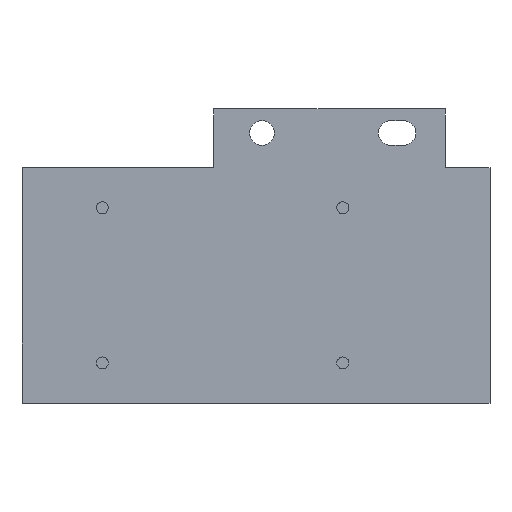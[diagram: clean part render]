
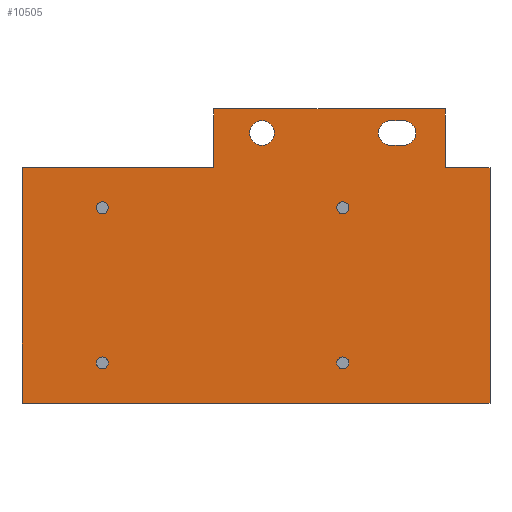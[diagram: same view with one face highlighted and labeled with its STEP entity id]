
A CAD part, front view. The second image highlights one B-rep face of the part: STEP entity #10505.
In plain terms, the highlighted planar face has unit normal (0, -1, 0).
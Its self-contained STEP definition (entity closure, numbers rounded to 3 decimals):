
#10469 = EDGE_CURVE('',#10470,#10472,#10474,.T.);
#10470 = VERTEX_POINT('',#10471);
#10471 = CARTESIAN_POINT('',(0.,-14.5,0.));
#10472 = VERTEX_POINT('',#10473);
#10473 = CARTESIAN_POINT('',(0.,-14.5,88.));
#10474 = LINE('',#10475,#10476);
#10475 = CARTESIAN_POINT('',(0.,-14.5,0.));
#10476 = VECTOR('',#10477,1.);
#10477 = DIRECTION('',(0.,0.,1.));
#10505 = ADVANCED_FACE('',(#10506,#10563,#10574,#10585,#10596,#10632,
    #10643),#10654,.T.);
#10506 = FACE_BOUND('',#10507,.T.);
#10507 = EDGE_LOOP('',(#10508,#10518,#10526,#10534,#10542,#10550,#10556,
    #10557));
#10508 = ORIENTED_EDGE('',*,*,#10509,.T.);
#10509 = EDGE_CURVE('',#10510,#10512,#10514,.T.);
#10510 = VERTEX_POINT('',#10511);
#10511 = CARTESIAN_POINT('',(175.,-14.5,0.));
#10512 = VERTEX_POINT('',#10513);
#10513 = CARTESIAN_POINT('',(175.,-14.5,88.));
#10514 = LINE('',#10515,#10516);
#10515 = CARTESIAN_POINT('',(175.,-14.5,0.));
#10516 = VECTOR('',#10517,1.);
#10517 = DIRECTION('',(0.,0.,1.));
#10518 = ORIENTED_EDGE('',*,*,#10519,.F.);
#10519 = EDGE_CURVE('',#10520,#10512,#10522,.T.);
#10520 = VERTEX_POINT('',#10521);
#10521 = CARTESIAN_POINT('',(158.35,-14.5,88.));
#10522 = LINE('',#10523,#10524);
#10523 = CARTESIAN_POINT('',(0.,-14.5,88.));
#10524 = VECTOR('',#10525,1.);
#10525 = DIRECTION('',(1.,0.,-0.));
#10526 = ORIENTED_EDGE('',*,*,#10527,.T.);
#10527 = EDGE_CURVE('',#10520,#10528,#10530,.T.);
#10528 = VERTEX_POINT('',#10529);
#10529 = CARTESIAN_POINT('',(158.35,-14.5,110.));
#10530 = LINE('',#10531,#10532);
#10531 = CARTESIAN_POINT('',(158.35,-14.5,83.));
#10532 = VECTOR('',#10533,1.);
#10533 = DIRECTION('',(0.,0.,1.));
#10534 = ORIENTED_EDGE('',*,*,#10535,.F.);
#10535 = EDGE_CURVE('',#10536,#10528,#10538,.T.);
#10536 = VERTEX_POINT('',#10537);
#10537 = CARTESIAN_POINT('',(71.65,-14.5,110.));
#10538 = LINE('',#10539,#10540);
#10539 = CARTESIAN_POINT('',(71.65,-14.5,110.));
#10540 = VECTOR('',#10541,1.);
#10541 = DIRECTION('',(1.,0.,-0.));
#10542 = ORIENTED_EDGE('',*,*,#10543,.F.);
#10543 = EDGE_CURVE('',#10544,#10536,#10546,.T.);
#10544 = VERTEX_POINT('',#10545);
#10545 = CARTESIAN_POINT('',(71.65,-14.5,88.));
#10546 = LINE('',#10547,#10548);
#10547 = CARTESIAN_POINT('',(71.65,-14.5,83.));
#10548 = VECTOR('',#10549,1.);
#10549 = DIRECTION('',(0.,0.,1.));
#10550 = ORIENTED_EDGE('',*,*,#10551,.F.);
#10551 = EDGE_CURVE('',#10472,#10544,#10552,.T.);
#10552 = LINE('',#10553,#10554);
#10553 = CARTESIAN_POINT('',(0.,-14.5,88.));
#10554 = VECTOR('',#10555,1.);
#10555 = DIRECTION('',(1.,0.,-0.));
#10556 = ORIENTED_EDGE('',*,*,#10469,.F.);
#10557 = ORIENTED_EDGE('',*,*,#10558,.T.);
#10558 = EDGE_CURVE('',#10470,#10510,#10559,.T.);
#10559 = LINE('',#10560,#10561);
#10560 = CARTESIAN_POINT('',(0.,-14.5,0.));
#10561 = VECTOR('',#10562,1.);
#10562 = DIRECTION('',(1.,0.,-0.));
#10563 = FACE_BOUND('',#10564,.T.);
#10564 = EDGE_LOOP('',(#10565));
#10565 = ORIENTED_EDGE('',*,*,#10566,.T.);
#10566 = EDGE_CURVE('',#10567,#10567,#10569,.T.);
#10567 = VERTEX_POINT('',#10568);
#10568 = CARTESIAN_POINT('',(30.,-14.5,75.25));
#10569 = CIRCLE('',#10570,2.25);
#10570 = AXIS2_PLACEMENT_3D('',#10571,#10572,#10573);
#10571 = CARTESIAN_POINT('',(30.,-14.5,73.));
#10572 = DIRECTION('',(0.,1.,0.));
#10573 = DIRECTION('',(0.,-0.,1.));
#10574 = FACE_BOUND('',#10575,.T.);
#10575 = EDGE_LOOP('',(#10576));
#10576 = ORIENTED_EDGE('',*,*,#10577,.T.);
#10577 = EDGE_CURVE('',#10578,#10578,#10580,.T.);
#10578 = VERTEX_POINT('',#10579);
#10579 = CARTESIAN_POINT('',(30.,-14.5,17.25));
#10580 = CIRCLE('',#10581,2.25);
#10581 = AXIS2_PLACEMENT_3D('',#10582,#10583,#10584);
#10582 = CARTESIAN_POINT('',(30.,-14.5,15.));
#10583 = DIRECTION('',(0.,1.,0.));
#10584 = DIRECTION('',(0.,-0.,1.));
#10585 = FACE_BOUND('',#10586,.T.);
#10586 = EDGE_LOOP('',(#10587));
#10587 = ORIENTED_EDGE('',*,*,#10588,.T.);
#10588 = EDGE_CURVE('',#10589,#10589,#10591,.T.);
#10589 = VERTEX_POINT('',#10590);
#10590 = CARTESIAN_POINT('',(89.735,-14.5,105.6));
#10591 = CIRCLE('',#10592,4.6);
#10592 = AXIS2_PLACEMENT_3D('',#10593,#10594,#10595);
#10593 = CARTESIAN_POINT('',(89.735,-14.5,101.));
#10594 = DIRECTION('',(0.,1.,0.));
#10595 = DIRECTION('',(0.,-0.,1.));
#10596 = FACE_BOUND('',#10597,.T.);
#10597 = EDGE_LOOP('',(#10598,#10608,#10617,#10625));
#10598 = ORIENTED_EDGE('',*,*,#10599,.T.);
#10599 = EDGE_CURVE('',#10600,#10602,#10604,.T.);
#10600 = VERTEX_POINT('',#10601);
#10601 = CARTESIAN_POINT('',(142.665,-14.5,96.4));
#10602 = VERTEX_POINT('',#10603);
#10603 = CARTESIAN_POINT('',(137.865,-14.5,96.4));
#10604 = LINE('',#10605,#10606);
#10605 = CARTESIAN_POINT('',(113.744,-14.5,96.4));
#10606 = VECTOR('',#10607,1.);
#10607 = DIRECTION('',(-1.,0.,0.));
#10608 = ORIENTED_EDGE('',*,*,#10609,.T.);
#10609 = EDGE_CURVE('',#10602,#10610,#10612,.T.);
#10610 = VERTEX_POINT('',#10611);
#10611 = CARTESIAN_POINT('',(137.865,-14.5,105.6));
#10612 = CIRCLE('',#10613,4.6);
#10613 = AXIS2_PLACEMENT_3D('',#10614,#10615,#10616);
#10614 = CARTESIAN_POINT('',(137.865,-14.5,101.));
#10615 = DIRECTION('',(0.,1.,0.));
#10616 = DIRECTION('',(0.,-0.,1.));
#10617 = ORIENTED_EDGE('',*,*,#10618,.F.);
#10618 = EDGE_CURVE('',#10619,#10610,#10621,.T.);
#10619 = VERTEX_POINT('',#10620);
#10620 = CARTESIAN_POINT('',(142.665,-14.5,105.6));
#10621 = LINE('',#10622,#10623);
#10622 = CARTESIAN_POINT('',(113.744,-14.5,105.6));
#10623 = VECTOR('',#10624,1.);
#10624 = DIRECTION('',(-1.,0.,0.));
#10625 = ORIENTED_EDGE('',*,*,#10626,.T.);
#10626 = EDGE_CURVE('',#10619,#10600,#10627,.T.);
#10627 = CIRCLE('',#10628,4.6);
#10628 = AXIS2_PLACEMENT_3D('',#10629,#10630,#10631);
#10629 = CARTESIAN_POINT('',(142.665,-14.5,101.));
#10630 = DIRECTION('',(0.,1.,0.));
#10631 = DIRECTION('',(0.,-0.,1.));
#10632 = FACE_BOUND('',#10633,.T.);
#10633 = EDGE_LOOP('',(#10634));
#10634 = ORIENTED_EDGE('',*,*,#10635,.T.);
#10635 = EDGE_CURVE('',#10636,#10636,#10638,.T.);
#10636 = VERTEX_POINT('',#10637);
#10637 = CARTESIAN_POINT('',(120.,-14.5,75.25));
#10638 = CIRCLE('',#10639,2.25);
#10639 = AXIS2_PLACEMENT_3D('',#10640,#10641,#10642);
#10640 = CARTESIAN_POINT('',(120.,-14.5,73.));
#10641 = DIRECTION('',(0.,1.,0.));
#10642 = DIRECTION('',(0.,-0.,1.));
#10643 = FACE_BOUND('',#10644,.T.);
#10644 = EDGE_LOOP('',(#10645));
#10645 = ORIENTED_EDGE('',*,*,#10646,.T.);
#10646 = EDGE_CURVE('',#10647,#10647,#10649,.T.);
#10647 = VERTEX_POINT('',#10648);
#10648 = CARTESIAN_POINT('',(120.,-14.5,17.25));
#10649 = CIRCLE('',#10650,2.25);
#10650 = AXIS2_PLACEMENT_3D('',#10651,#10652,#10653);
#10651 = CARTESIAN_POINT('',(120.,-14.5,15.));
#10652 = DIRECTION('',(0.,1.,0.));
#10653 = DIRECTION('',(0.,-0.,1.));
#10654 = PLANE('',#10655);
#10655 = AXIS2_PLACEMENT_3D('',#10656,#10657,#10658);
#10656 = CARTESIAN_POINT('',(89.623,-14.5,51.592));
#10657 = DIRECTION('',(-0.,-1.,-0.));
#10658 = DIRECTION('',(0.,0.,-1.));
